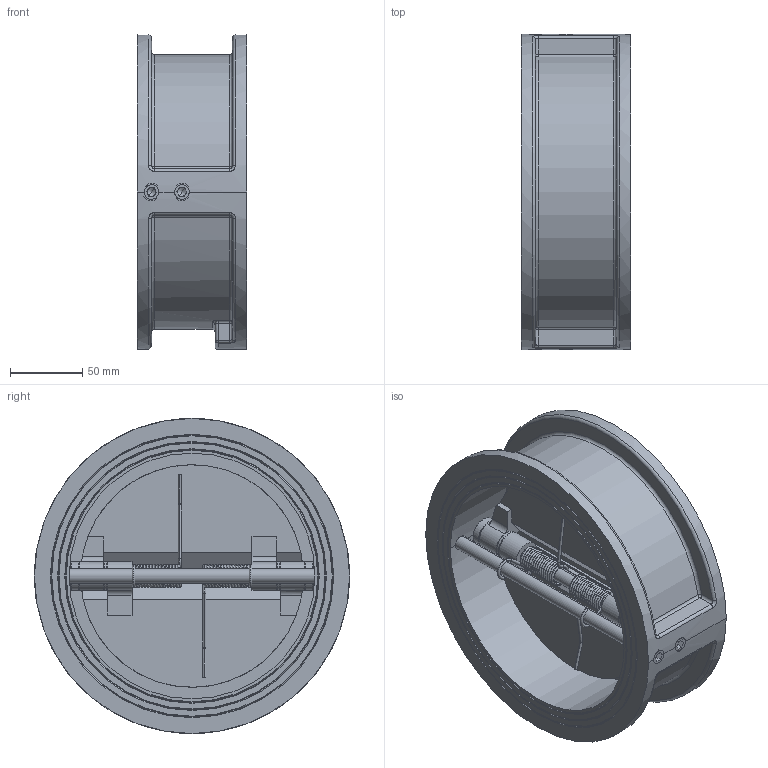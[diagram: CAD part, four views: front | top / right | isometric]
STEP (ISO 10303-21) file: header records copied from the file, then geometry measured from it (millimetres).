
FILE_DESCRIPTION(('Open CASCADE Model'),'2;1');
FILE_NAME('Open CASCADE Shape Model','2022-03-10T07:55:03',('Author'),( 'Open CASCADE'),'Open CASCADE STEP processor 7.3','Open CASCADE 7.3' ,'Unknown');
FILE_SCHEMA(('AUTOMOTIVE_DESIGN { 1 0 10303 214 1 1 1 1 }'));
Length unit declared in the file: millimetre
Products named in the file (21): Open CASCADE STEP translator 7.3 1; Open CASCADE STEP translator 7.3 1.1; Open CASCADE STEP translator 7.3 1.2; Open CASCADE STEP translator 7.3 1.3; Open CASCADE STEP translator 7.3 1.4; Open CASCADE STEP translator 7.3 1.5; Open CASCADE STEP translator 7.3 1.6; Open CASCADE STEP translator 7.3 1.7; Open CASCADE STEP translator 7.3 1.8; Open CASCADE STEP translator 7.3 1.9; Open CASCADE STEP translator 7.3 1.10; Open CASCADE STEP translator 7.3 1.11; Open CASCADE STEP translator 7.3 1.12; Open CASCADE STEP translator 7.3 1.13; Open CASCADE STEP translator 7.3 1.14; Open CASCADE STEP translator 7.3 1.15; Open CASCADE STEP translator 7.3 1.16; Open CASCADE STEP translator 7.3 1.17; Open CASCADE STEP translator 7.3 1.18; Open CASCADE STEP translator 7.3 1.19; Open CASCADE STEP translator 7.3 1.20
Assembly tree (20 placements, depth 2):
  Open CASCADE STEP translator 7.3 1
    Open CASCADE STEP translator 7.3 1.1
    Open CASCADE STEP translator 7.3 1.2
    Open CASCADE STEP translator 7.3 1.3
    Open CASCADE STEP translator 7.3 1.4
    Open CASCADE STEP translator 7.3 1.5
    Open CASCADE STEP translator 7.3 1.6
    Open CASCADE STEP translator 7.3 1.7
    Open CASCADE STEP translator 7.3 1.8
    Open CASCADE STEP translator 7.3 1.9
    Open CASCADE STEP translator 7.3 1.10
    Open CASCADE STEP translator 7.3 1.11
    Open CASCADE STEP translator 7.3 1.12
    Open CASCADE STEP translator 7.3 1.13
    Open CASCADE STEP translator 7.3 1.14
    Open CASCADE STEP translator 7.3 1.15
    Open CASCADE STEP translator 7.3 1.16
    Open CASCADE STEP translator 7.3 1.17
    Open CASCADE STEP translator 7.3 1.18
    Open CASCADE STEP translator 7.3 1.19
    Open CASCADE STEP translator 7.3 1.20
Bounding box: 76 x 218 x 218 mm (x, y, z)
Volume: 1134625.7 mm3; surface area: 271218.4 mm2
Topology: 20 solids, 20 shells, 472 faces, 1098 edges, 650 vertices
Faces by surface type: cylinder 156, plane 154, cone 90, torus 38, bspline 22, sphere 12
Entity records: 56514 total; most frequent: CARTESIAN_POINT 34556, DIRECTION 4124, ORIENTED_EDGE 2156, PCURVE 2156, DEFINITIONAL_REPRESENTATION 2156, LINE 2013, VECTOR 2013, EDGE_CURVE 1078
